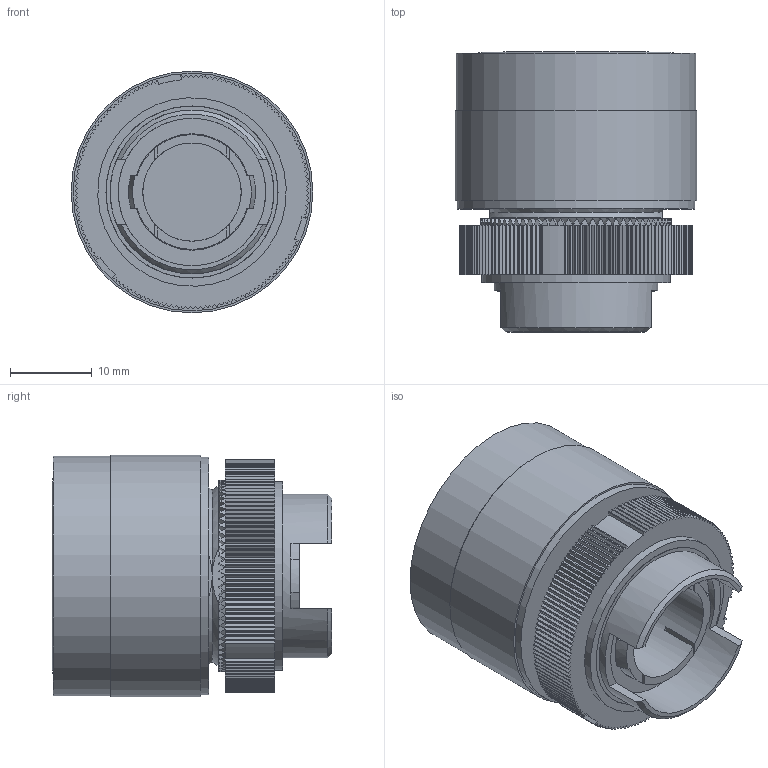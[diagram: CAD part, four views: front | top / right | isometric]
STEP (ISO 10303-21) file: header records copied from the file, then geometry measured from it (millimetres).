
FILE_DESCRIPTION (( 'STEP AP214' ), '1' );
FILE_NAME ('3D 斁麧錪 MTB2-EW33.STEP', '2017-10-31T12:37:00', ( '' ), ( '' ), 'SwSTEP 2.0', 'SolidWorks 2014', '' );
FILE_SCHEMA (( 'AUTOMOTIVE_DESIGN' ));
Length unit declared in the file: millimetre
Products named in the file (4): 扱闀罻 MTB2-EW33; 3D 斁麧錪 MTB2-EW33; Êîëüöî-ãàéêà; 暑朦鲱 箫腩蝽栩咫铄
Assembly tree (3 placements, depth 2):
  3D 斁麧錪 MTB2-EW33
    扱闀罻 MTB2-EW33
    暑朦鲱 箫腩蝽栩咫铄
    Êîëüöî-ãàéêà
Bounding box: 29.5 x 34.15 x 29.5 mm (x, y, z)
Volume: 16884.9 mm3; surface area: 10379.4 mm2
Topology: 3 solids, 3 shells, 747 faces, 2160 edges, 1427 vertices
Faces by surface type: plane 482, cylinder 156, bspline 74, cone 32, torus 3
Full cylindrical faces by diameter (mm): 12 x1, 14 x1, 14.2 x1, 18 x1, 20 x1, 21 x2, 22.5 x1, 23 x1, 25.2 x1, 25.5 x1, 25.75 x1, 29 x1, 29.25 x1, 29.5 x1
Entity records: 31952 total; most frequent: CARTESIAN_POINT 11529, ORIENTED_EDGE 4264, DIRECTION 3279, EDGE_CURVE 2132, VERTEX_POINT 1417, VECTOR 1177, LINE 1177, AXIS2_PLACEMENT_3D 1051
